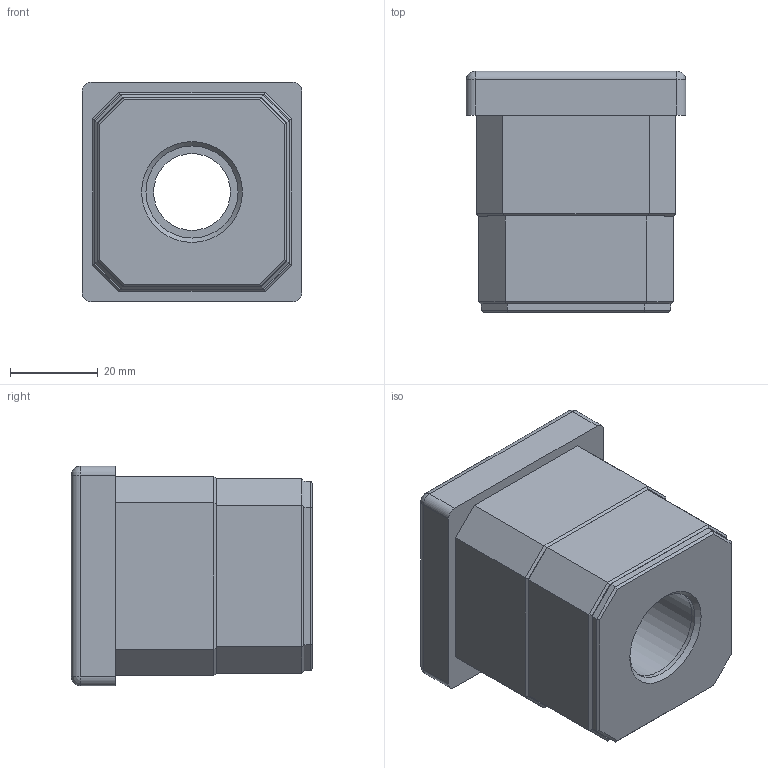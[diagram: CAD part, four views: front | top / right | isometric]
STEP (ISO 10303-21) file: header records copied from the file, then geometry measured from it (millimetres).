
FILE_DESCRIPTION(('STEP AP203'),'2;1');
FILE_NAME('17060.stp','2014-06-23T16:51:47',(''),(''),'2008.1.107','THINKDESIGN','');
FILE_SCHEMA(('CONFIG_CONTROL_DESIGN'));
Length unit declared in the file: millimetre
Bounding box: 50 x 55 x 50 mm (x, y, z)
Volume: 95787.3 mm3; surface area: 30830.7 mm2
Topology: 5 solids, 5 shells, 83 faces, 199 edges, 123 vertices
Faces by surface type: bspline 41, plane 27, cylinder 15
Full cylindrical faces by diameter (mm): 17.5 x1, 21 x3, 25 x3
Entity records: 3427 total; most frequent: CARTESIAN_POINT 1431, ORIENTED_EDGE 388, DIRECTION 314, EDGE_CURVE 194, VECTOR 136, LINE 136, VERTEX_POINT 122, EDGE_LOOP 94
